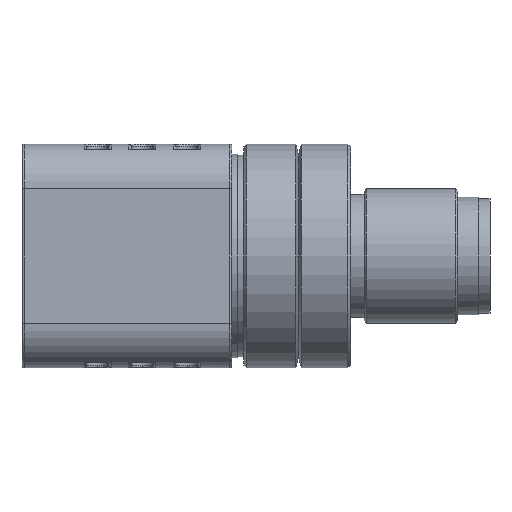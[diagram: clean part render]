
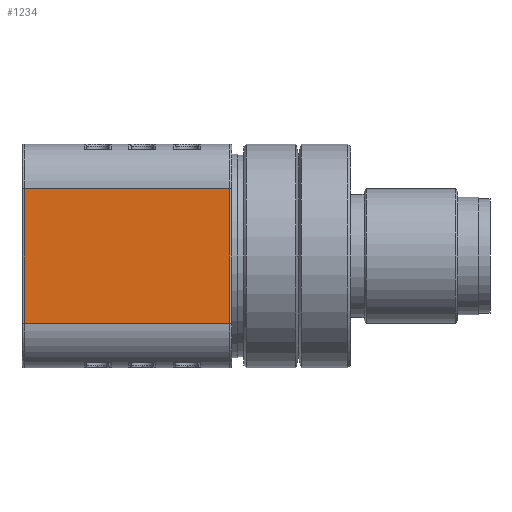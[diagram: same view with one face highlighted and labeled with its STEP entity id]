
A CAD part, left-side view. The second image highlights one B-rep face of the part: STEP entity #1234.
In plain terms, the highlighted planar face has unit normal (-1, 0, 0).
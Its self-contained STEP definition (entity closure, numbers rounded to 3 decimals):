
#22 = EDGE_LOOP ( 'NONE', ( #3413, #3374, #1575, #3411 ) ) ;
#405 = AXIS2_PLACEMENT_3D ( 'NONE', #3717, #3725, #3726 ) ;
#469 = VECTOR ( 'NONE', #5139, 1000. ) ;
#780 = DIRECTION ( 'NONE',  ( 0., 0., 1. ) ) ;
#1152 = CARTESIAN_POINT ( 'NONE',  ( -10., 9.175, -6. ) ) ;
#1234 = ADVANCED_FACE ( 'NONE', ( #3716 ), #3724, .T. ) ;
#1281 = EDGE_CURVE ( 'NONE', #3344, #2483, #5137, .T. ) ;
#1575 = ORIENTED_EDGE ( 'NONE', *, *, #1281, .F. ) ;
#1763 = CARTESIAN_POINT ( 'NONE',  ( -10., 0., 6. ) ) ;
#1770 = LINE ( 'NONE', #1763, #2758 ) ;
#1774 = DIRECTION ( 'NONE',  ( 0., -1., 0. ) ) ;
#2185 = LINE ( 'NONE', #2186, #2910 ) ;
#2186 = CARTESIAN_POINT ( 'NONE',  ( -10., -9.175, 6. ) ) ;
#2483 = VERTEX_POINT ( 'NONE', #4297 ) ;
#2507 = VERTEX_POINT ( 'NONE', #4315 ) ;
#2669 = VERTEX_POINT ( 'NONE', #4366 ) ;
#2758 = VECTOR ( 'NONE', #1774, 1000. ) ;
#2800 = VECTOR ( 'NONE', #4434, 1000. ) ;
#2910 = VECTOR ( 'NONE', #780, 1000. ) ;
#3001 = EDGE_CURVE ( 'NONE', #3344, #2507, #4428, .T. ) ;
#3039 = EDGE_CURVE ( 'NONE', #2483, #2669, #1770, .T. ) ;
#3132 = EDGE_CURVE ( 'NONE', #2507, #2669, #2185, .T. ) ;
#3344 = VERTEX_POINT ( 'NONE', #1152 ) ;
#3374 = ORIENTED_EDGE ( 'NONE', *, *, #3039, .F. ) ;
#3411 = ORIENTED_EDGE ( 'NONE', *, *, #3001, .T. ) ;
#3413 = ORIENTED_EDGE ( 'NONE', *, *, #3132, .T. ) ;
#3716 = FACE_OUTER_BOUND ( 'NONE', #22, .T. ) ;
#3717 = CARTESIAN_POINT ( 'NONE',  ( -10., 0., 6. ) ) ;
#3724 = PLANE ( 'NONE',  #405 ) ;
#3725 = DIRECTION ( 'NONE',  ( -1., 0., 0. ) ) ;
#3726 = DIRECTION ( 'NONE',  ( 0., 0., 1. ) ) ;
#4297 = CARTESIAN_POINT ( 'NONE',  ( -10., 9.175, 6. ) ) ;
#4315 = CARTESIAN_POINT ( 'NONE',  ( -10., -9.175, -6. ) ) ;
#4366 = CARTESIAN_POINT ( 'NONE',  ( -10., -9.175, 6. ) ) ;
#4428 = LINE ( 'NONE', #4433, #2800 ) ;
#4433 = CARTESIAN_POINT ( 'NONE',  ( -10., 0., -6. ) ) ;
#4434 = DIRECTION ( 'NONE',  ( 0., -1., 0. ) ) ;
#5137 = LINE ( 'NONE', #5138, #469 ) ;
#5138 = CARTESIAN_POINT ( 'NONE',  ( -10., 9.175, 3. ) ) ;
#5139 = DIRECTION ( 'NONE',  ( 0., 0., 1. ) ) ;
